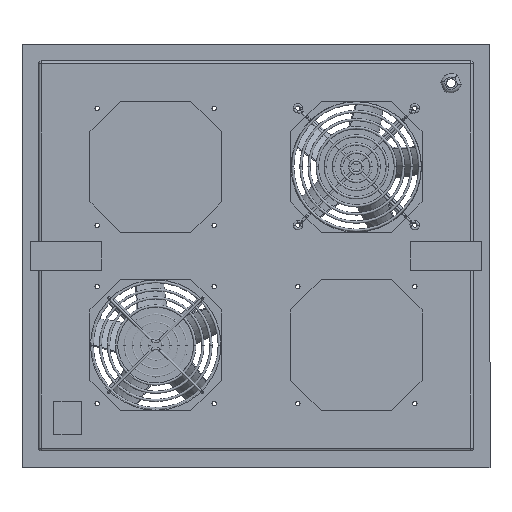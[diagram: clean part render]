
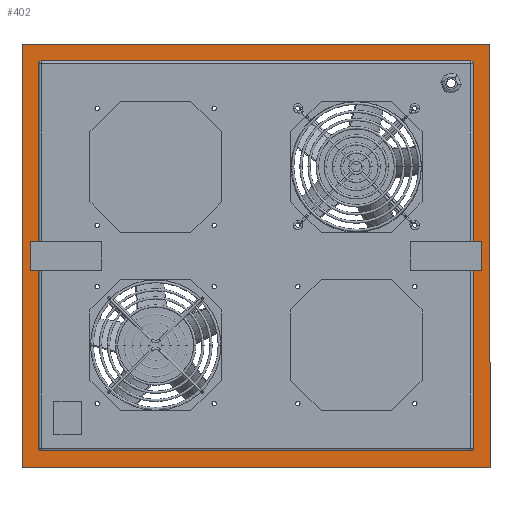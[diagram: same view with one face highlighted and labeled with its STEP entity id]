
A CAD part, top view. The second image highlights one B-rep face of the part: STEP entity #402.
In plain terms, the highlighted planar face has unit normal (0, 0, 1).
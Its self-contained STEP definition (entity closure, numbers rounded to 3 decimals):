
#396 = EDGE_CURVE ( 'NONE', #403, #459, #15711, .T. ) ;
#399 = EDGE_LOOP ( 'NONE', ( #854, #774, #467, #788, #782, #476, #473, #472 ) ) ;
#400 = VERTEX_POINT ( 'NONE', #15688 ) ;
#401 = VERTEX_POINT ( 'NONE', #15422 ) ;
#402 = ADVANCED_FACE ( 'NONE', ( #15390, #15392 ), #15710, .T. ) ;
#403 = VERTEX_POINT ( 'NONE', #15684 ) ;
#404 = ORIENTED_EDGE ( 'NONE', *, *, #556, .T. ) ;
#405 = EDGE_CURVE ( 'NONE', #401, #406, #15380, .T. ) ;
#406 = VERTEX_POINT ( 'NONE', #15622 ) ;
#407 = ORIENTED_EDGE ( 'NONE', *, *, #405, .T. ) ;
#408 = EDGE_CURVE ( 'NONE', #406, #410, #15388, .T. ) ;
#409 = VERTEX_POINT ( 'NONE', #15613 ) ;
#410 = VERTEX_POINT ( 'NONE', #15373 ) ;
#459 = VERTEX_POINT ( 'NONE', #15539 ) ;
#460 = VERTEX_POINT ( 'NONE', #15544 ) ;
#464 = ORIENTED_EDGE ( 'NONE', *, *, #408, .T. ) ;
#467 = ORIENTED_EDGE ( 'NONE', *, *, #745, .F. ) ;
#468 = EDGE_CURVE ( 'NONE', #460, #409, #14166, .T. ) ;
#470 = EDGE_CURVE ( 'NONE', #403, #816, #14362, .T. ) ;
#471 = EDGE_CURVE ( 'NONE', #781, #409, #15900, .T. ) ;
#472 = ORIENTED_EDGE ( 'NONE', *, *, #396, .T. ) ;
#473 = ORIENTED_EDGE ( 'NONE', *, *, #470, .F. ) ;
#474 = EDGE_CURVE ( 'NONE', #781, #816, #15901, .T. ) ;
#476 = ORIENTED_EDGE ( 'NONE', *, *, #474, .T. ) ;
#543 = EDGE_LOOP ( 'NONE', ( #404, #407, #464, #784 ) ) ;
#556 = EDGE_CURVE ( 'NONE', #400, #401, #15862, .T. ) ;
#745 = EDGE_CURVE ( 'NONE', #460, #855, #16038, .T. ) ;
#774 = ORIENTED_EDGE ( 'NONE', *, *, #817, .T. ) ;
#781 = VERTEX_POINT ( 'NONE', #16944 ) ;
#782 = ORIENTED_EDGE ( 'NONE', *, *, #471, .F. ) ;
#784 = ORIENTED_EDGE ( 'NONE', *, *, #786, .T. ) ;
#786 = EDGE_CURVE ( 'NONE', #410, #400, #16969, .T. ) ;
#787 = EDGE_CURVE ( 'NONE', #856, #459, #16890, .T. ) ;
#788 = ORIENTED_EDGE ( 'NONE', *, *, #468, .T. ) ;
#816 = VERTEX_POINT ( 'NONE', #16620 ) ;
#817 = EDGE_CURVE ( 'NONE', #856, #855, #16617, .T. ) ;
#854 = ORIENTED_EDGE ( 'NONE', *, *, #787, .F. ) ;
#855 = VERTEX_POINT ( 'NONE', #16736 ) ;
#856 = VERTEX_POINT ( 'NONE', #16642 ) ;
#14166 = CIRCLE ( 'NONE', #14368, 2.4 ) ;
#14218 = VECTOR ( 'NONE', #14614, 1000. ) ;
#14340 = CARTESIAN_POINT ( 'NONE',  ( -195., -175., 1.2 ) ) ;
#14362 = LINE ( 'NONE', #14340, #14218 ) ;
#14364 = DIRECTION ( 'NONE',  ( 1., 0., 0. ) ) ;
#14366 = DIRECTION ( 'NONE',  ( 0., 0., -1. ) ) ;
#14367 = CARTESIAN_POINT ( 'NONE',  ( 192.6, -172.6, 1.2 ) ) ;
#14368 = AXIS2_PLACEMENT_3D ( 'NONE', #14367, #14366, #14364 ) ;
#14614 = DIRECTION ( 'NONE',  ( 0., -1., 0. ) ) ;
#14697 = DIRECTION ( 'NONE',  ( 0., 1., 0. ) ) ;
#14827 = CARTESIAN_POINT ( 'NONE',  ( 195., -175., 1.2 ) ) ;
#14879 = VECTOR ( 'NONE', #14697, 1000. ) ;
#15373 = CARTESIAN_POINT ( 'NONE',  ( -210., -190., 1.2 ) ) ;
#15375 = DIRECTION ( 'NONE',  ( 1., 0., 0. ) ) ;
#15376 = DIRECTION ( 'NONE',  ( 0., 0., 1. ) ) ;
#15378 = CARTESIAN_POINT ( 'NONE',  ( -210., 190., 1.2 ) ) ;
#15380 = LINE ( 'NONE', #15378, #15619 ) ;
#15388 = LINE ( 'NONE', #15610, #15608 ) ;
#15390 = FACE_OUTER_BOUND ( 'NONE', #543, .T. ) ;
#15392 = FACE_BOUND ( 'NONE', #399, .T. ) ;
#15394 = CARTESIAN_POINT ( 'NONE',  ( 0., 0., 1.2 ) ) ;
#15422 = CARTESIAN_POINT ( 'NONE',  ( 210., 190., 1.2 ) ) ;
#15507 = AXIS2_PLACEMENT_3D ( 'NONE', #15529, #15686, #15685 ) ;
#15529 = CARTESIAN_POINT ( 'NONE',  ( -192.6, 172.6, 1.2 ) ) ;
#15539 = CARTESIAN_POINT ( 'NONE',  ( -192.6, 175., 1.2 ) ) ;
#15544 = CARTESIAN_POINT ( 'NONE',  ( 195., -172.6, 1.2 ) ) ;
#15606 = DIRECTION ( 'NONE',  ( 0., -1., 0. ) ) ;
#15608 = VECTOR ( 'NONE', #15606, 1000. ) ;
#15610 = CARTESIAN_POINT ( 'NONE',  ( -210., 190., 1.2 ) ) ;
#15613 = CARTESIAN_POINT ( 'NONE',  ( 192.6, -175., 1.2 ) ) ;
#15618 = DIRECTION ( 'NONE',  ( -1., 0., 0. ) ) ;
#15619 = VECTOR ( 'NONE', #15618, 1000. ) ;
#15622 = CARTESIAN_POINT ( 'NONE',  ( -210., 190., 1.2 ) ) ;
#15684 = CARTESIAN_POINT ( 'NONE',  ( -195., 172.6, 1.2 ) ) ;
#15685 = DIRECTION ( 'NONE',  ( 1., 0., 0. ) ) ;
#15686 = DIRECTION ( 'NONE',  ( 0., 0., -1. ) ) ;
#15688 = CARTESIAN_POINT ( 'NONE',  ( 210., -190., 1.2 ) ) ;
#15707 = AXIS2_PLACEMENT_3D ( 'NONE', #15394, #15376, #15375 ) ;
#15710 = PLANE ( 'NONE',  #15707 ) ;
#15711 = CIRCLE ( 'NONE', #15507, 2.4 ) ;
#15844 = DIRECTION ( 'NONE',  ( 0., 1., 0. ) ) ;
#15846 = VECTOR ( 'NONE', #15844, 1000. ) ;
#15847 = CARTESIAN_POINT ( 'NONE',  ( 210., 190., 1.2 ) ) ;
#15862 = LINE ( 'NONE', #15847, #15846 ) ;
#15897 = DIRECTION ( 'NONE',  ( 1., 0., 0. ) ) ;
#15898 = VECTOR ( 'NONE', #15897, 1000. ) ;
#15899 = CARTESIAN_POINT ( 'NONE',  ( -195., -175., 1.2 ) ) ;
#15900 = LINE ( 'NONE', #15899, #15898 ) ;
#15901 = CIRCLE ( 'NONE', #15905, 2.4 ) ;
#15902 = DIRECTION ( 'NONE',  ( 0., 0., -1. ) ) ;
#15904 = CARTESIAN_POINT ( 'NONE',  ( -192.6, -172.6, 1.2 ) ) ;
#15905 = AXIS2_PLACEMENT_3D ( 'NONE', #15904, #15902, #15972 ) ;
#15972 = DIRECTION ( 'NONE',  ( 1., 0., 0. ) ) ;
#16038 = LINE ( 'NONE', #14827, #14879 ) ;
#16602 = DIRECTION ( 'NONE',  ( 1., 0., 0. ) ) ;
#16604 = DIRECTION ( 'NONE',  ( 0., 0., -1. ) ) ;
#16606 = CARTESIAN_POINT ( 'NONE',  ( 192.6, 172.6, 1.2 ) ) ;
#16617 = CIRCLE ( 'NONE', #16845, 2.4 ) ;
#16620 = CARTESIAN_POINT ( 'NONE',  ( -195., -172.6, 1.2 ) ) ;
#16642 = CARTESIAN_POINT ( 'NONE',  ( 192.6, 175., 1.2 ) ) ;
#16736 = CARTESIAN_POINT ( 'NONE',  ( 195., 172.6, 1.2 ) ) ;
#16845 = AXIS2_PLACEMENT_3D ( 'NONE', #16606, #16604, #16602 ) ;
#16887 = DIRECTION ( 'NONE',  ( -1., 0., 0. ) ) ;
#16888 = VECTOR ( 'NONE', #16887, 1000. ) ;
#16889 = CARTESIAN_POINT ( 'NONE',  ( -195., 175., 1.2 ) ) ;
#16890 = LINE ( 'NONE', #16889, #16888 ) ;
#16944 = CARTESIAN_POINT ( 'NONE',  ( -192.6, -175., 1.2 ) ) ;
#16966 = DIRECTION ( 'NONE',  ( 1., 0., 0. ) ) ;
#16967 = VECTOR ( 'NONE', #16966, 1000. ) ;
#16968 = CARTESIAN_POINT ( 'NONE',  ( -210., -190., 1.2 ) ) ;
#16969 = LINE ( 'NONE', #16968, #16967 ) ;
